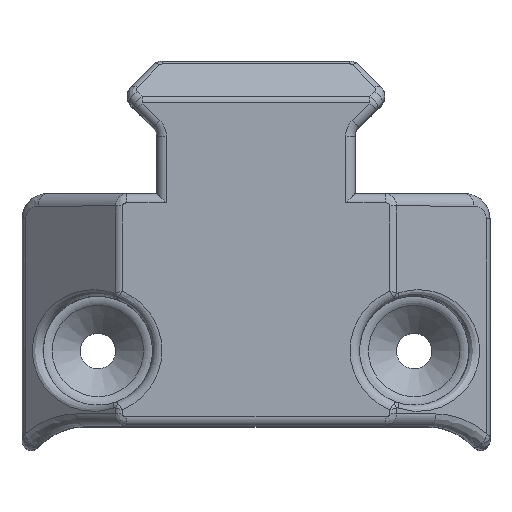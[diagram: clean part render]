
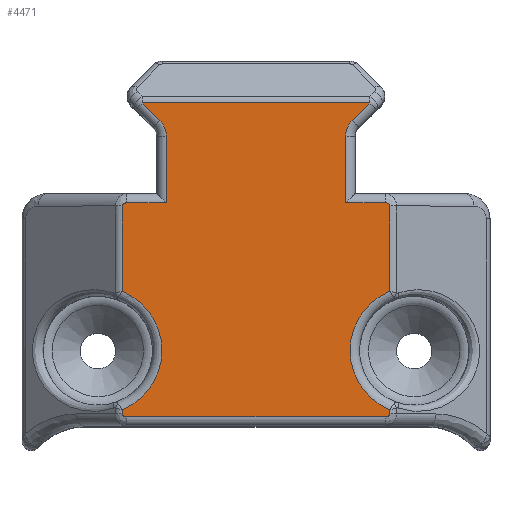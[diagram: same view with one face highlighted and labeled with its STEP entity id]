
A CAD part, top view. The second image highlights one B-rep face of the part: STEP entity #4471.
In plain terms, the highlighted planar face has unit normal (0, 0, 1).
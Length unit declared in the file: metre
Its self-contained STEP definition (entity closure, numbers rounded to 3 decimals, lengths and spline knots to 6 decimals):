
#220=ELLIPSE('',#5060,0.000339,0.00024);
#221=ELLIPSE('',#5062,0.000339,0.00024);
#222=ELLIPSE('',#5063,0.000339,0.00024);
#223=ELLIPSE('',#5065,0.000339,0.00024);
#276=PLANE('',#5058);
#561=CIRCLE('',#5059,0.00175);
#562=CIRCLE('',#5061,0.005064);
#563=CIRCLE('',#5064,0.005064);
#564=CIRCLE('',#5066,0.00175);
#1691=ORIENTED_EDGE('',*,*,#2507,.T.);
#1692=ORIENTED_EDGE('',*,*,#2508,.T.);
#1693=ORIENTED_EDGE('',*,*,#2509,.T.);
#1694=ORIENTED_EDGE('',*,*,#2510,.T.);
#1695=ORIENTED_EDGE('',*,*,#2511,.T.);
#1696=ORIENTED_EDGE('',*,*,#2512,.T.);
#1697=ORIENTED_EDGE('',*,*,#2513,.T.);
#1698=ORIENTED_EDGE('',*,*,#2514,.T.);
#1699=ORIENTED_EDGE('',*,*,#2515,.T.);
#1700=ORIENTED_EDGE('',*,*,#2516,.T.);
#1701=ORIENTED_EDGE('',*,*,#2517,.T.);
#1702=ORIENTED_EDGE('',*,*,#2518,.T.);
#1703=ORIENTED_EDGE('',*,*,#2519,.T.);
#1704=ORIENTED_EDGE('',*,*,#2520,.T.);
#1705=ORIENTED_EDGE('',*,*,#2521,.T.);
#1706=ORIENTED_EDGE('',*,*,#2522,.T.);
#1707=ORIENTED_EDGE('',*,*,#2523,.T.);
#1708=ORIENTED_EDGE('',*,*,#2524,.T.);
#1709=ORIENTED_EDGE('',*,*,#2525,.T.);
#1710=ORIENTED_EDGE('',*,*,#2526,.T.);
#2507=EDGE_CURVE('',#2932,#2933,#3199,.T.);
#2508=EDGE_CURVE('',#2933,#2934,#3200,.T.);
#2509=EDGE_CURVE('',#2934,#2935,#3201,.T.);
#2510=EDGE_CURVE('',#2935,#2936,#561,.T.);
#2511=EDGE_CURVE('',#2936,#2937,#3202,.T.);
#2512=EDGE_CURVE('',#2937,#2938,#3203,.F.);
#2513=EDGE_CURVE('',#2938,#2939,#220,.F.);
#2514=EDGE_CURVE('',#2939,#2940,#3204,.F.);
#2515=EDGE_CURVE('',#2940,#2941,#562,.T.);
#2516=EDGE_CURVE('',#2941,#2942,#3205,.F.);
#2517=EDGE_CURVE('',#2942,#2943,#221,.F.);
#2518=EDGE_CURVE('',#2943,#2944,#3206,.T.);
#2519=EDGE_CURVE('',#2944,#2945,#222,.F.);
#2520=EDGE_CURVE('',#2945,#2946,#3207,.T.);
#2521=EDGE_CURVE('',#2946,#2947,#563,.T.);
#2522=EDGE_CURVE('',#2947,#2948,#3208,.T.);
#2523=EDGE_CURVE('',#2948,#2949,#223,.F.);
#2524=EDGE_CURVE('',#2949,#2950,#3209,.F.);
#2525=EDGE_CURVE('',#2950,#2951,#3210,.T.);
#2526=EDGE_CURVE('',#2951,#2932,#564,.T.);
#2932=VERTEX_POINT('',#8570);
#2933=VERTEX_POINT('',#8571);
#2934=VERTEX_POINT('',#8573);
#2935=VERTEX_POINT('',#8575);
#2936=VERTEX_POINT('',#8577);
#2937=VERTEX_POINT('',#8579);
#2938=VERTEX_POINT('',#8581);
#2939=VERTEX_POINT('',#8583);
#2940=VERTEX_POINT('',#8585);
#2941=VERTEX_POINT('',#8587);
#2942=VERTEX_POINT('',#8589);
#2943=VERTEX_POINT('',#8591);
#2944=VERTEX_POINT('',#8593);
#2945=VERTEX_POINT('',#8595);
#2946=VERTEX_POINT('',#8597);
#2947=VERTEX_POINT('',#8599);
#2948=VERTEX_POINT('',#8601);
#2949=VERTEX_POINT('',#8603);
#2950=VERTEX_POINT('',#8605);
#2951=VERTEX_POINT('',#8607);
#3199=LINE('',#8569,#3446);
#3200=LINE('',#8572,#3447);
#3201=LINE('',#8574,#3448);
#3202=LINE('',#8578,#3449);
#3203=LINE('',#8580,#3450);
#3204=LINE('',#8584,#3451);
#3205=LINE('',#8588,#3452);
#3206=LINE('',#8592,#3453);
#3207=LINE('',#8596,#3454);
#3208=LINE('',#8600,#3455);
#3209=LINE('',#8604,#3456);
#3210=LINE('',#8606,#3457);
#3446=VECTOR('',#6418,1.);
#3447=VECTOR('',#6419,1.);
#3448=VECTOR('',#6420,1.);
#3449=VECTOR('',#6423,1.);
#3450=VECTOR('',#6424,1.);
#3451=VECTOR('',#6427,1.);
#3452=VECTOR('',#6430,1.);
#3453=VECTOR('',#6433,1.);
#3454=VECTOR('',#6436,1.);
#3455=VECTOR('',#6439,1.);
#3456=VECTOR('',#6442,1.);
#3457=VECTOR('',#6443,1.);
#3726=EDGE_LOOP('',(#1691,#1692,#1693,#1694,#1695,#1696,#1697,#1698,#1699,
#1700,#1701,#1702,#1703,#1704,#1705,#1706,#1707,#1708,#1709,#1710));
#4043=FACE_BOUND('',#3726,.T.);
#4471=ADVANCED_FACE('',(#4043),#276,.F.);
#5058=AXIS2_PLACEMENT_3D('',#8568,#6416,#6417);
#5059=AXIS2_PLACEMENT_3D('',#8576,#6421,#6422);
#5060=AXIS2_PLACEMENT_3D('',#8582,#6425,#6426);
#5061=AXIS2_PLACEMENT_3D('',#8586,#6428,#6429);
#5062=AXIS2_PLACEMENT_3D('',#8590,#6431,#6432);
#5063=AXIS2_PLACEMENT_3D('',#8594,#6434,#6435);
#5064=AXIS2_PLACEMENT_3D('',#8598,#6437,#6438);
#5065=AXIS2_PLACEMENT_3D('',#8602,#6440,#6441);
#5066=AXIS2_PLACEMENT_3D('',#8608,#6444,#6445);
#6416=DIRECTION('',(0.,0.,-1.));
#6417=DIRECTION('',(-1.,0.,0.));
#6418=DIRECTION('',(0.707,0.707,0.));
#6419=DIRECTION('',(-1.,0.,0.));
#6420=DIRECTION('',(0.707,-0.707,0.));
#6421=DIRECTION('',(0.,0.,-1.));
#6422=DIRECTION('',(-1.,0.,0.));
#6423=DIRECTION('',(0.,-1.,0.));
#6424=DIRECTION('',(1.,0.,0.));
#6425=DIRECTION('',(0.,0.,-1.));
#6426=DIRECTION('',(-1.,0.,0.));
#6427=DIRECTION('',(0.,1.,0.));
#6428=DIRECTION('',(0.,0.,-1.));
#6429=DIRECTION('',(-1.,0.,0.));
#6430=DIRECTION('',(0.,1.,0.));
#6431=DIRECTION('',(0.,0.,-1.));
#6432=DIRECTION('',(-1.,0.,0.));
#6433=DIRECTION('',(1.,0.,0.));
#6434=DIRECTION('',(0.,0.,-1.));
#6435=DIRECTION('',(-1.,0.,0.));
#6436=DIRECTION('',(0.,1.,0.));
#6437=DIRECTION('',(0.,0.,-1.));
#6438=DIRECTION('',(-1.,0.,0.));
#6439=DIRECTION('',(0.,1.,0.));
#6440=DIRECTION('',(0.,0.,-1.));
#6441=DIRECTION('',(-1.,0.,0.));
#6442=DIRECTION('',(1.,0.,0.));
#6443=DIRECTION('',(0.,1.,0.));
#6444=DIRECTION('',(0.,0.,-1.));
#6445=DIRECTION('',(-1.,0.,0.));
#8568=CARTESIAN_POINT('',(-0.009248,0.166477,0.0641));
#8569=CARTESIAN_POINT('',(0.009363,0.155814,0.0641));
#8570=CARTESIAN_POINT('',(0.007598,0.154049,0.0641));
#8571=CARTESIAN_POINT('',(0.008994,0.155445,0.0641));
#8572=CARTESIAN_POINT('',(-0.008774,0.155445,0.0641));
#8573=CARTESIAN_POINT('',(-0.008994,0.155445,0.0641));
#8574=CARTESIAN_POINT('',(-0.007598,0.154049,0.0641));
#8575=CARTESIAN_POINT('',(-0.007598,0.154049,0.0641));
#8576=CARTESIAN_POINT('',(-0.008835,0.152812,0.0641));
#8577=CARTESIAN_POINT('',(-0.007085,0.152812,0.0641));
#8578=CARTESIAN_POINT('',(-0.007085,0.148297,0.0641));
#8579=CARTESIAN_POINT('',(-0.007085,0.147547,0.0641));
#8580=CARTESIAN_POINT('',(-0.009248,0.147547,0.0641));
#8581=CARTESIAN_POINT('',(-0.010236,0.147547,0.0641));
#8582=CARTESIAN_POINT('',(-0.010236,0.147307,0.0641));
#8583=CARTESIAN_POINT('',(-0.010575,0.147307,0.0641));
#8584=CARTESIAN_POINT('',(-0.010575,0.166477,0.0641));
#8585=CARTESIAN_POINT('',(-0.010575,0.140561,0.0641));
#8586=CARTESIAN_POINT('',(-0.0125,0.135877,0.0641));
#8587=CARTESIAN_POINT('',(-0.010575,0.131192,0.0641));
#8588=CARTESIAN_POINT('',(-0.010575,0.166477,0.0641));
#8589=CARTESIAN_POINT('',(-0.010575,0.130867,0.0641));
#8590=CARTESIAN_POINT('',(-0.010236,0.130867,0.0641));
#8591=CARTESIAN_POINT('',(-0.010236,0.130627,0.0641));
#8592=CARTESIAN_POINT('',(0.009486,0.130627,0.0641));
#8593=CARTESIAN_POINT('',(0.010236,0.130627,0.0641));
#8594=CARTESIAN_POINT('',(0.010236,0.130867,0.0641));
#8595=CARTESIAN_POINT('',(0.010575,0.130867,0.0641));
#8596=CARTESIAN_POINT('',(0.010575,0.131483,0.0641));
#8597=CARTESIAN_POINT('',(0.010575,0.131192,0.0641));
#8598=CARTESIAN_POINT('',(0.0125,0.135877,0.0641));
#8599=CARTESIAN_POINT('',(0.010575,0.140561,0.0641));
#8600=CARTESIAN_POINT('',(0.010575,0.147307,0.0641));
#8601=CARTESIAN_POINT('',(0.010575,0.147307,0.0641));
#8602=CARTESIAN_POINT('',(0.010236,0.147307,0.0641));
#8603=CARTESIAN_POINT('',(0.010236,0.147547,0.0641));
#8604=CARTESIAN_POINT('',(-0.009248,0.147547,0.0641));
#8605=CARTESIAN_POINT('',(0.007085,0.147547,0.0641));
#8606=CARTESIAN_POINT('',(0.007085,0.152812,0.0641));
#8607=CARTESIAN_POINT('',(0.007085,0.152812,0.0641));
#8608=CARTESIAN_POINT('',(0.008835,0.152812,0.0641));
